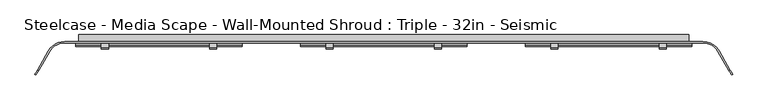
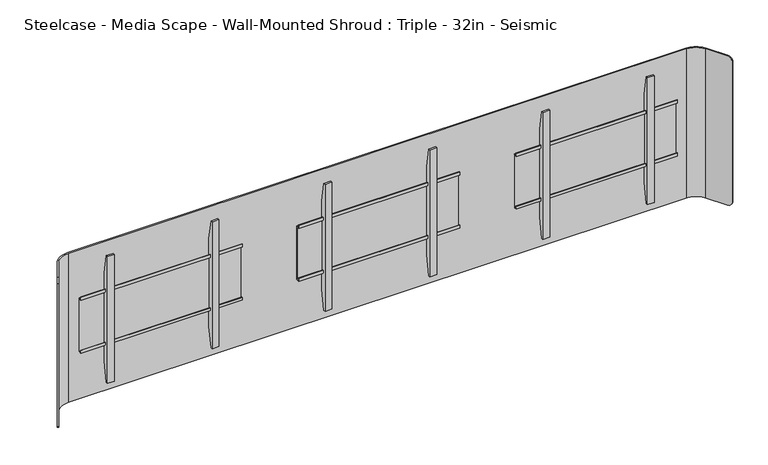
"""IFC4 building model written with IfcOpenShell, lengths in millimetres: furniture geometry, Steelcase - Media Scape - Wall-Mounted Shroud : Triple - 32in - Seismic."""

from ifc_helpers import new_model, si_unit, frame, origin, place, context, project, spatial, polyline, circle_curve, outline, extrude, source, transform, mapped, element, save
from ifc_brep_helpers import plane_surface, cylinder_surface, revolved_surface, advanced_brep


def steelcase_media_scape_wall_mounted_shroud_triple_32in_fca1dc44(model_context):
    return source(origin(), model_context, "Body", "SolidModel", [
        extrude(outline(polyline([(-42.4942785, 1237.6504726), (-42.4942785, 1249.6645649), (-39.8272175, 1249.6645649), (-39.8272175, 1240.317461), (-29.9720009, 1240.317461), (-29.9720009, 1025.9922438), (-42.3164551, 1025.9922438), (-42.3164551, 1036.9142515), (-39.649394, 1036.9142515), (-39.649394, 1028.657052), (-32.6531824, 1028.657052), (-32.6531824, 1237.6504726), (-42.4942785, 1237.6504726)])), frame((518.795, 0.0, 0.0), z_axis=(1.0, 0.0, 0.0), x_axis=(0.0, 1.0, 0.0)), (0.0, 0.0, 1.0), 609.6),
        extrude(outline(polyline([(-32.6531824, 1308.5971148), (-32.6531824, 956.7825607), (-46.5049349, 879.1546949), (-53.3399828, 879.1546949), (-53.3399828, 1387.1547192), (-46.5050076, 1387.1547192), (-32.6531824, 1308.5971148)])), frame((612.396426, 0.0, 0.0), z_axis=(1.0, 0.0, 0.0), x_axis=(0.0, 1.0, 0.0)), (0.0, 0.0, 1.0), 26.1592872),
        extrude(outline(polyline([(-32.6531824, 1308.5971148), (-32.6531824, 956.7825607), (-46.5049349, 879.1546949), (-53.3399828, 879.1546949), (-53.3399828, 1387.1547192), (-46.5050076, 1387.1547192), (-32.6531824, 1308.5971148)])), frame((1008.6342868, 0.0, 0.0), z_axis=(1.0, 0.0, 0.0), x_axis=(0.0, 1.0, 0.0)), (0.0, 0.0, 1.0), 26.1592872),
        extrude(outline(polyline([(-42.4942785, 1237.6504726), (-42.4942785, 1249.6645649), (-39.8272175, 1249.6645649), (-39.8272175, 1240.317461), (-29.9720009, 1240.317461), (-29.9720009, 1025.9922438), (-42.3164551, 1025.9922438), (-42.3164551, 1036.9142515), (-39.649394, 1036.9142515), (-39.649394, 1028.657052), (-32.6531824, 1028.657052), (-32.6531824, 1237.6504726), (-42.4942785, 1237.6504726)])), frame((-1128.395, 0.0, 0.0), z_axis=(1.0, 0.0, 0.0), x_axis=(0.0, 1.0, 0.0)), (0.0, 0.0, 1.0), 609.6),
        extrude(outline(polyline([(-32.6531824, 1308.5971148), (-32.6531824, 956.7825607), (-46.5049349, 879.1546949), (-53.3399828, 879.1546949), (-53.3399828, 1387.1547192), (-46.5050076, 1387.1547192), (-32.6531824, 1308.5971148)])), frame((-638.5557132, 0.0, 0.0), z_axis=(1.0, 0.0, 0.0), x_axis=(0.0, 1.0, 0.0)), (0.0, 0.0, 1.0), 26.1592872),
        extrude(outline(polyline([(-32.6531824, 1308.5971148), (-32.6531824, 956.7825607), (-46.5049349, 879.1546949), (-53.3399828, 879.1546949), (-53.3399828, 1387.1547192), (-46.5050076, 1387.1547192), (-32.6531824, 1308.5971148)])), frame((-1034.793574, 0.0, 0.0), z_axis=(1.0, 0.0, 0.0), x_axis=(0.0, 1.0, 0.0)), (0.0, 0.0, 1.0), 26.1592872),
        extrude(outline(polyline([(-42.4942785, 1237.6504726), (-42.4942785, 1249.6645649), (-39.8272175, 1249.6645649), (-39.8272175, 1240.317461), (-29.9720009, 1240.317461), (-29.9720009, 1025.9922438), (-42.3164551, 1025.9922438), (-42.3164551, 1036.9142515), (-39.649394, 1036.9142515), (-39.649394, 1028.657052), (-32.6531824, 1028.657052), (-32.6531824, 1237.6504726), (-42.4942785, 1237.6504726)])), frame((-304.8, 0.0, 0.0), z_axis=(1.0, 0.0, 0.0), x_axis=(0.0, 1.0, 0.0)), (0.0, 0.0, 1.0), 609.6),
        extrude(outline(polyline([(-32.6531824, 1308.5971148), (-32.6531824, 956.7825607), (-46.5049349, 879.1546949), (-53.3399828, 879.1546949), (-53.3399828, 1387.1547192), (-46.5050076, 1387.1547192), (-32.6531824, 1308.5971148)])), frame((185.0392868, 0.0, 0.0), z_axis=(1.0, 0.0, 0.0), x_axis=(0.0, 1.0, 0.0)), (0.0, 0.0, 1.0), 26.1592872),
        extrude(outline(polyline([(-32.6531824, 1308.5971148), (-32.6531824, 956.7825607), (-46.5049349, 879.1546949), (-53.3399828, 879.1546949), (-53.3399828, 1387.1547192), (-46.5050076, 1387.1547192), (-32.6531824, 1308.5971148)])), frame((-211.198574, 0.0, 0.0), z_axis=(1.0, 0.0, 0.0), x_axis=(0.0, 1.0, 0.0)), (0.0, 0.0, 1.0), 26.1592872),
        extrude(outline(polyline([(1117.6, -25.4), (-1117.6, -25.4), (-1117.6, 0.0), (1117.6, 0.0), (1117.6, -25.4)])), frame((0.0, 0.0, 835.914), z_axis=(0.0, 0.0, 1.0), x_axis=(1.0, 0.0, 0.0)), (0.0, 0.0, 1.0), 76.2508167),
        advanced_brep(
        [(-1224.4086135, -61.722, 1432.814), (-1169.416002, -29.9720009, 1432.814), (1169.416, -29.9720009, 1432.814), (1224.4086135, -61.722, 1432.814), (1264.529586, -131.2135628, 1432.814), (1268.4890541, -128.9275628, 1432.814), (1228.3680817, -59.436, 1432.814), (1169.416002, -25.4, 1432.814), (-1169.416, -25.4, 1432.814), (-1228.3680817, -59.436, 1432.814), (-1268.4921659, -128.9329524, 1432.814), (-1264.5326977, -131.2189524, 1432.814), (-1228.3680817, -59.436, 835.914), (-1169.416002, -25.4, 835.914), (1169.416, -25.4, 835.914), (1228.3680817, -59.436, 835.914), (1268.5406629, -129.0169518, 835.914), (1264.5811948, -131.3029518, 835.914), (1224.4086135, -61.722, 835.914), (1169.416002, -29.9720009, 835.914), (-1169.416, -29.9720009, 835.914), (-1224.4086135, -61.722, 835.914), (-1264.5954014, -131.3275584, 835.914), (-1268.5548695, -129.0415584, 835.914), (-1278.0590632, -145.5033047, 849.5242766), (-1278.0590632, -145.5033047, 1418.8227735), (-1274.0995951, -147.7893047, 1418.8227735), (-1274.0995951, -147.7893047, 849.5242766), (1274.0770866, -147.7503189, 849.4756893), (1274.0770866, -147.7503189, 1418.9433849), (1278.0365547, -145.4643189, 1418.9433849), (1278.0365547, -145.4643189, 849.4756893)],
        [
            (0, 1, circle_curve(frame((-1169.416002, -93.4719991, 1432.814), z_axis=(0.0, 0.0, -1.0), x_axis=(0.0, 1.0, 0.0)), 63.4999981)),
            (1, 2),
            (2, 3, circle_curve(frame((1169.416002, -93.4719991, 1432.814), z_axis=(0.0, 0.0, -1.0), x_axis=(0.0, 1.0, 0.0)), 63.4999981)),
            (3, 4),
            (4, 5),
            (5, 6),
            (6, 7, circle_curve(frame((1169.4160004, -93.472, 1432.814), z_axis=(0.0, 0.0, 1.0), x_axis=(0.0, 1.0, 0.0)), 68.072)),
            (7, 8),
            (8, 9, circle_curve(frame((-1169.4160004, -93.472, 1432.814), z_axis=(0.0, 0.0, 1.0), x_axis=(0.0, 1.0, 0.0)), 68.072)),
            (9, 10),
            (10, 11),
            (11, 0),
            (12, 13, circle_curve(frame((-1169.4160004, -93.472, 835.914), z_axis=(0.0, 0.0, -1.0), x_axis=(0.0, 1.0, 0.0)), 68.072)),
            (13, 14),
            (14, 15, circle_curve(frame((1169.4160004, -93.472, 835.914), z_axis=(0.0, 0.0, -1.0), x_axis=(0.0, 1.0, 0.0)), 68.072)),
            (15, 16),
            (16, 17),
            (17, 18),
            (18, 19, circle_curve(frame((1169.416002, -93.4719991, 835.914), z_axis=(0.0, 0.0, 1.0), x_axis=(0.0, 1.0, 0.0)), 63.4999981)),
            (19, 20),
            (20, 21, circle_curve(frame((-1169.416002, -93.4719991, 835.914), z_axis=(0.0, 0.0, 1.0), x_axis=(0.0, 1.0, 0.0)), 63.4999981)),
            (21, 22),
            (22, 23),
            (23, 12),
            (0, 21),
            (20, 1),
            (8, 13),
            (12, 9),
            (23, 24, circle_curve(frame((-1268.5548695, -129.0415584, 855.9928872), z_axis=(-0.8660254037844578, 0.49999999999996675, 0.0), x_axis=(-0.49999999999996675, -0.8660254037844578, 0.0)), 20.0788872)),
            (24, 25),
            (25, 10, circle_curve(frame((-1268.4921659, -128.9329524, 1412.7351128), z_axis=(-0.866025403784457, 0.49999999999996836, 0.0), x_axis=(-0.49999999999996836, -0.866025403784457, 0.0)), 20.0788872)),
            (26, 25),
            (24, 27),
            (27, 26),
            (11, 26, circle_curve(frame((-1264.5326977, -131.2189524, 1412.7351128), z_axis=(0.866025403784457, -0.49999999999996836, 0.0), x_axis=(-0.49999999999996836, -0.866025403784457, 0.0)), 20.0788872)),
            (27, 22, circle_curve(frame((-1264.5954014, -131.3275584, 855.9928872), z_axis=(0.8660254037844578, -0.49999999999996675, 0.0), x_axis=(-0.49999999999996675, -0.8660254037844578, 0.0)), 20.0788872)),
            (7, 14),
            (19, 2),
            (3, 18),
            (17, 28, circle_curve(frame((1264.5811948, -131.3029518, 855.9928872), z_axis=(-0.8660254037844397, -0.49999999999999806, 0.0), x_axis=(0.49999999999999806, -0.8660254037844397, 0.0)), 20.0788872)),
            (28, 29),
            (29, 4, circle_curve(frame((1264.529586, -131.2135628, 1412.7351128), z_axis=(-0.8660254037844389, -0.49999999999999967, 0.0), x_axis=(0.49999999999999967, -0.8660254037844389, 0.0)), 20.0788872)),
            (30, 29),
            (28, 31),
            (31, 30),
            (15, 6),
            (5, 30, circle_curve(frame((1268.4890541, -128.9275628, 1412.7351128), z_axis=(0.8660254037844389, 0.49999999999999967, 0.0), x_axis=(0.49999999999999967, -0.8660254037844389, 0.0)), 20.0788872)),
            (31, 16, circle_curve(frame((1268.5406629, -129.0169518, 855.9928872), z_axis=(0.8660254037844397, 0.49999999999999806, 0.0), x_axis=(0.49999999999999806, -0.8660254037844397, 0.0)), 20.0788872)),
        ],
        [
            plane_surface(frame((-1169.416002, -29.9720009, 1432.814), z_axis=(0.0, 0.0, 1.0), x_axis=(1.0, 0.0, 0.0))),
            plane_surface(frame((-1169.416002, -29.9720009, 835.914), z_axis=(0.0, 0.0, -1.0), x_axis=(-1.0, 0.0, 0.0))),
            revolved_surface(polyline([(-1169.416002, -29.972001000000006, 835.914), (-1169.416002, -29.972001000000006, 1432.814)]), (-1169.416002, -93.4719991, 835.914), (0.0, 0.0, -1.0)),
            cylinder_surface(frame((-1169.4160004, -93.472, 835.914), z_axis=(0.0, 0.0, 1.0), x_axis=(0.0, 1.0, 0.0)), 68.072),
            plane_surface(frame((-1228.3680817, -59.436, 1432.814), z_axis=(-0.866025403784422, 0.5000000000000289, 0.0), x_axis=(0.0, 0.0, -1.0))),
            plane_surface(frame((-1278.0590632, -145.5033047, 1432.814), z_axis=(-0.5000000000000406, -0.8660254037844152, 0.0), x_axis=(0.0, 0.0, -1.0))),
            plane_surface(frame((-1274.0995951, -147.7893047, 1432.814), z_axis=(0.8660254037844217, -0.5000000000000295, 0.0), x_axis=(0.0, 0.0, -1.0))),
            plane_surface(frame((1169.416, -25.4, 1432.814), z_axis=(0.0, 1.0, 0.0), x_axis=(0.0, 0.0, -1.0))),
            plane_surface(frame((-1169.416, -29.9720009, 1432.814), z_axis=(0.0, -1.0, 0.0), x_axis=(0.0, 0.0, -1.0))),
            plane_surface(frame((1224.4086135, -61.722, 1432.814), z_axis=(-0.8660254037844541, -0.4999999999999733, 0.0), x_axis=(0.0, 0.0, -1.0))),
            plane_surface(frame((1274.0770866, -147.7503189, 1432.814), z_axis=(0.4999999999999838, -0.866025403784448, 0.0), x_axis=(0.0, 0.0, -1.0))),
            plane_surface(frame((1278.0365547, -145.4643189, 1432.814), z_axis=(0.8660254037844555, 0.49999999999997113, 0.0), x_axis=(0.0, 0.0, -1.0))),
            cylinder_surface(frame((1169.4160004, -93.472, 835.914), z_axis=(0.0, 0.0, 1.0), x_axis=(0.0, 1.0, 0.0)), 68.072),
            revolved_surface(polyline([(1169.416002, -29.972001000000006, 835.914), (1169.416002, -29.972001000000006, 1432.814)]), (1169.416002, -93.4719991, 835.914), (0.0, 0.0, -1.0)),
            cylinder_surface(frame((-1264.5326977, -131.2189524, 1412.7351128), z_axis=(0.866025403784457, -0.49999999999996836, 0.0), x_axis=(-0.49999999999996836, -0.866025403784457, 0.0)), 20.0788872),
            cylinder_surface(frame((-1264.5954014, -131.3275584, 855.9928872), z_axis=(0.8660254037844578, -0.49999999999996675, 0.0), x_axis=(-0.49999999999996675, -0.8660254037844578, 0.0)), 20.0788872),
            cylinder_surface(frame((1279.6364297, -122.4916225, 1412.7351128), z_axis=(0.8660254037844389, 0.49999999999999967, 0.0), x_axis=(0.49999999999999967, -0.8660254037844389, 0.0)), 20.0788872),
            cylinder_surface(frame((1276.8289695, -124.2316958, 855.9928872), z_axis=(0.8660254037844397, 0.49999999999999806, 0.0), x_axis=(0.49999999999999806, -0.8660254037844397, 0.0)), 20.0788872),
        ],
        [
            (0, [[1, 2, 3, 4, 5, 6, 7, 8, 9, 10, 11, 12]]),
            (1, [[13, 14, 15, 16, 17, 18, 19, 20, 21, 22, 23, 24]]),
            (2, [[-1, 25, -21, 26]]),
            (3, [[-9, 27, -13, 28]]),
            (4, [[-28, -24, 29, 30, 31, -10]]),
            (5, [[32, -30, 33, 34]]),
            (6, [[-25, -12, 35, -34, 36, -22]]),
            (7, [[-8, 37, -14, -27]]),
            (8, [[-2, -26, -20, 38]]),
            (9, [[39, -18, 40, 41, 42, -4]]),
            (10, [[43, -41, 44, 45]]),
            (11, [[46, -6, 47, -45, 48, -16]]),
            (12, [[-7, -46, -15, -37]]),
            (13, [[-3, -38, -19, -39]]),
            (14, [[-11, -31, -32, -35]]),
            (15, [[-23, -36, -33, -29]]),
            (16, [[-5, -42, -43, -47]]),
            (17, [[-17, -48, -44, -40]]),
        ],
    ),
        extrude(outline(polyline([(912.1648167, 1054.0999879), (912.1648167, 1117.6), (1356.614, 1117.6), (1356.614, -1117.6), (912.1648167, -1117.6), (912.1648167, -1055.0933465), (1293.1139516, -1055.0933465), (1293.1139516, 1054.0999879), (912.1648167, 1054.0999879)])), frame((0.0, -25.4, 0.0), z_axis=(0.0, 1.0, 0.0), x_axis=(0.0, 0.0, 1.0)), (0.0, 0.0, 1.0), 25.4),
    ])


if __name__ == "__main__":
    model = new_model("IFC4")
    model_context = context("Model", 3, world=origin())
    ifc_project = project(units=[si_unit("LENGTHUNIT", "METRE", prefix="MILLI")], contexts=[model_context])
    site = spatial("IfcSite", under=ifc_project)
    building = spatial("IfcBuilding", under=site)
    placement = place(None, origin())
    steelcase_media_scape_wall_mounted_shroud_triple_32in_shape = steelcase_media_scape_wall_mounted_shroud_triple_32in_fca1dc44(model_context)
    element("IfcFurniture", 1, ObjectType="Steelcase - Media Scape - Wall-Mounted Shroud : Triple - 32in - Seismic", at=placement, inside=building, context=model_context, shape_type="MappedRepresentation", body=[
        mapped(steelcase_media_scape_wall_mounted_shroud_triple_32in_shape, transform((0.0, 0.0, 0.0), x_axis=(1.0, 0.0, 0.0), y_axis=(0.0, 1.0, 0.0), z_axis=(0.0, 0.0, 1.0))),
    ])
    save(model, "model.ifc")
